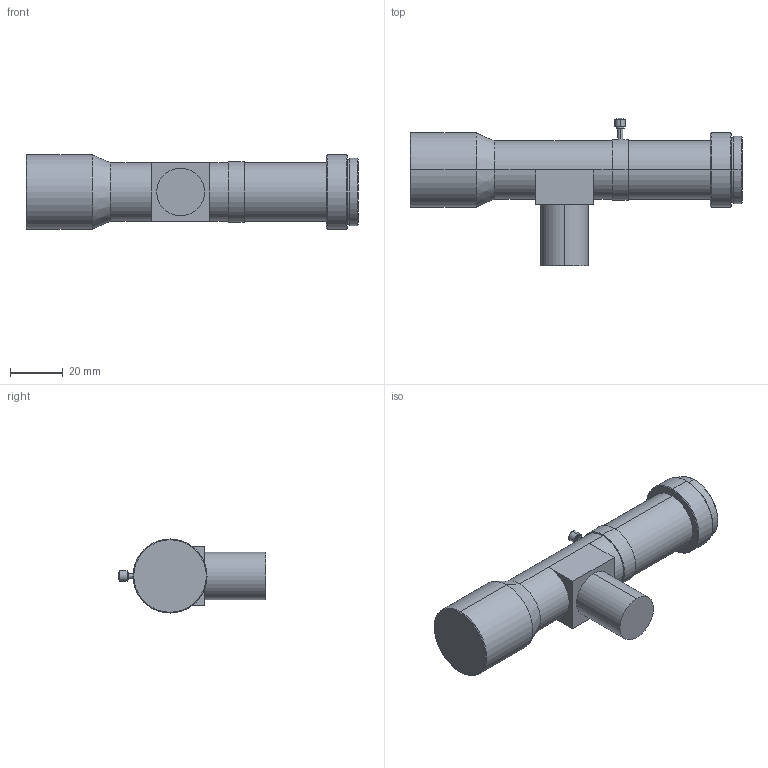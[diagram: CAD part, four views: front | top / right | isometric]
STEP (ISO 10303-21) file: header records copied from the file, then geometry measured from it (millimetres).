
FILE_DESCRIPTION (( 'STEP AP203' ), '1' );
FILE_NAME ('WWH08-130CT-G STEPͼ.STEP', '2019-11-08T08:06:48', ( '' ), ( '' ), 'SwSTEP 2.0', 'SolidWorks 2014', '' );
FILE_SCHEMA (( 'CONFIG_CONTROL_DESIGN' ));
Length unit declared in the file: millimetre
Products named in the file (1): WWH08-130CT-G STEPͼ
Bounding box: 125.4 x 55.6 x 28 mm (x, y, z)
Volume: 64955.6 mm3; surface area: 12912.2 mm2
Topology: 2 solids, 2 shells, 51 faces, 102 edges, 63 vertices
Faces by surface type: cylinder 23, plane 16, cone 10, sphere 2
Entity records: 1409 total; most frequent: DIRECTION 264, CARTESIAN_POINT 217, ORIENTED_EDGE 204, AXIS2_PLACEMENT_3D 110, EDGE_CURVE 102, VERTEX_POINT 63, EDGE_LOOP 59, CIRCLE 58
